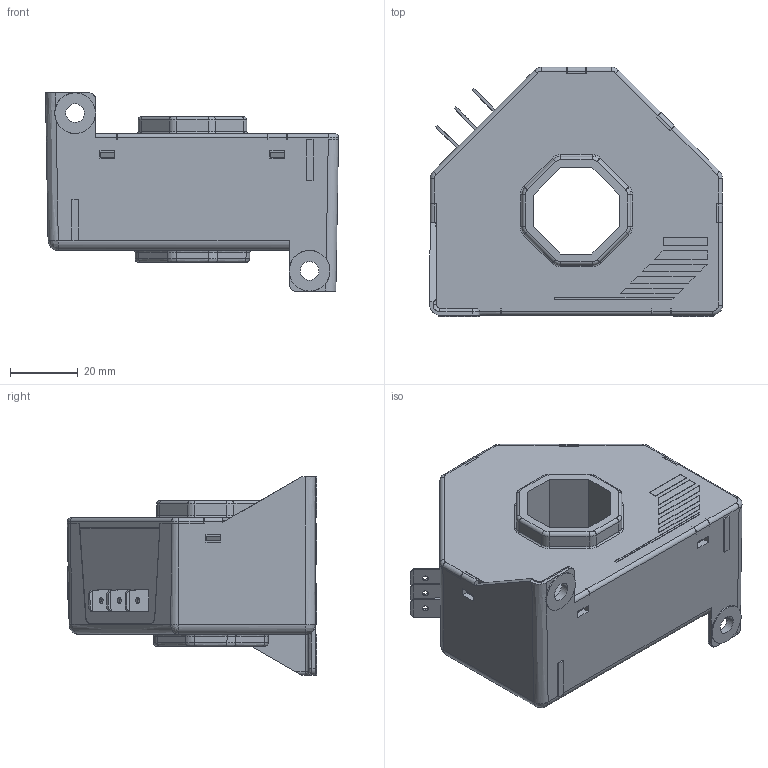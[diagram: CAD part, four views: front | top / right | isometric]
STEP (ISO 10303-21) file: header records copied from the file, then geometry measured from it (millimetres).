
FILE_DESCRIPTION(('Creo Elements/Direct Modeling STEP Export'),'2;1');
FILE_NAME('LA 305-S_SP8 Blackbox.stp','2015-10-21T10:24:03',(''),(''),'Creo Elements/Direct Modeling STEP processor for AP214 (Solid Model)','Creo Elements/Direct Modeling 18.1 03-Mar-2012 (C) Parametric Technology GmbH','');
FILE_SCHEMA(('AUTOMOTIVE_DESIGN { 1 0 10303 214 1 1 1 1 }'));
Length unit declared in the file: millimetre
Products named in the file (1): LA305_SP8
Bounding box: 86.25 x 73.41 x 58.4 mm (x, y, z)
Volume: 164355.9 mm3; surface area: 25476.2 mm2
Topology: 1 solids, 1 shells, 740 faces, 1920 edges, 1228 vertices
Faces by surface type: plane 540, cylinder 109, bspline 35, extrusion 31, torus 21, cone 4
Entity records: 26923 total; most frequent: CARTESIAN_POINT 9243, ORIENTED_EDGE 3834, DIRECTION 3181, EDGE_CURVE 1917, VECTOR 1517, LINE 1486, VERTEX_POINT 1228, AXIS2_PLACEMENT_3D 832
